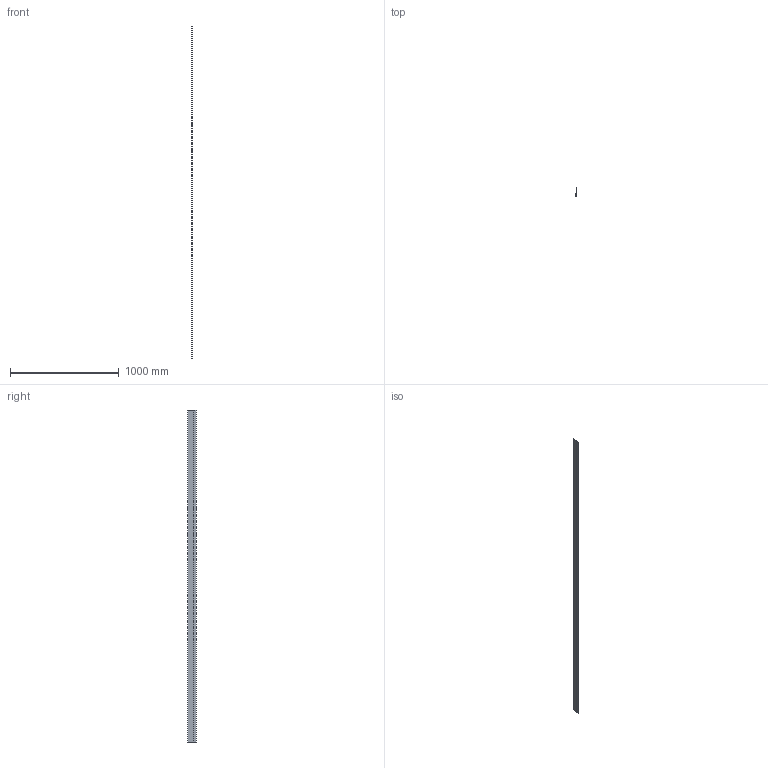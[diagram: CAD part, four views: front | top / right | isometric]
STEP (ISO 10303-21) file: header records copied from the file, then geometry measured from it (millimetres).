
FILE_DESCRIPTION(/* description */ (''),/* implementation_level */ '2;1');
FILE_NAME(/* name */ 'M10P.stp',/* time_stamp */ '2024-05-09T10:17:05-04:00',/* author */ ('olivier.st-arneault'),/* organization */ (''),/* preprocessor_version */ 'ST-DEVELOPER v20',/* originating_system */ 'Autodesk Inventor 2024',/* authorisation */ '');
FILE_SCHEMA (('AUTOMOTIVE_DESIGN { 1 0 10303 214 3 1 1 }'));
Length unit declared in the file: inch
Products named in the file (1): M10P
Bounding box: 1.78 x 76.08 x 3048 mm (x, y, z)
Volume: 157651.7 mm3; surface area: 623876.1 mm2
Topology: 1 solids, 1 shells, 10 faces, 24 edges, 16 vertices
Faces by surface type: plane 8, cylinder 2
Entity records: 337 total; most frequent: CARTESIAN_POINT 51, DIRECTION 50, ORIENTED_EDGE 48, EDGE_CURVE 24, LINE 20, VECTOR 20, VERTEX_POINT 16, AXIS2_PLACEMENT_3D 15
